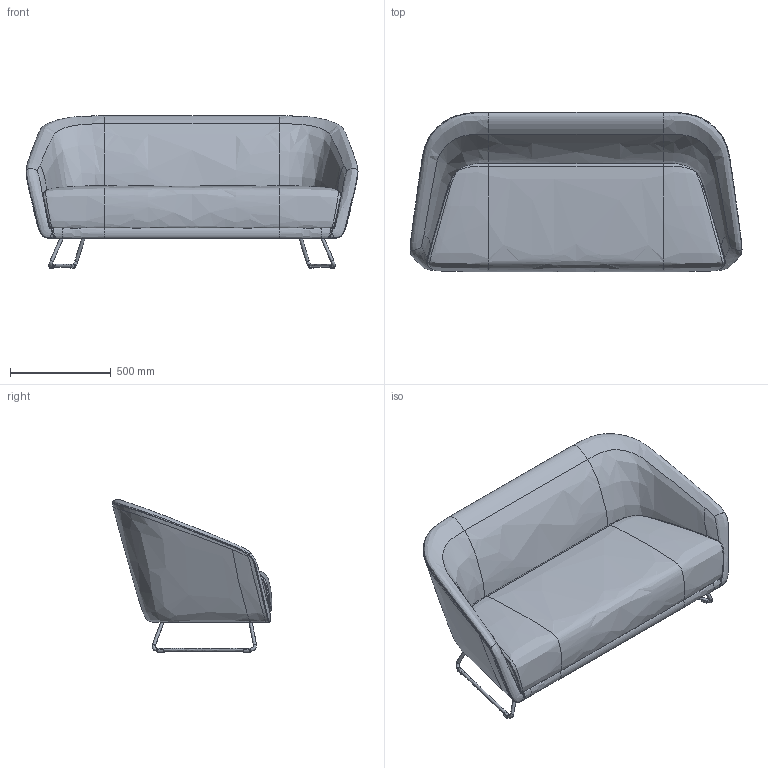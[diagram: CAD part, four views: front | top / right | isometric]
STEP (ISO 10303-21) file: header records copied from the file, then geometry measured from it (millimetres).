
FILE_DESCRIPTION(/* description */ (''),/* implementation_level */ '2;1');
FILE_NAME(/* name */ 'Organix OX5263',/* time_stamp */ '2020-12-16T09:28:44+01:00',/* author */ (''),/* organization */ (''),/* preprocessor_version */ 'ST-DEVELOPER v16.5',/* originating_system */ '',/* authorisation */ '');
FILE_SCHEMA (('AUTOMOTIVE_DESIGN'));
Length unit declared in the file: millimetre
Products named in the file (1): Document
Bounding box: 1648.48 x 792.32 x 758.41 mm (x, y, z)
Volume: 324671 mm3; surface area: 5049127.1 mm2
Topology: 6 solids, 12 shells, 113 faces, 283 edges, 182 vertices
Faces by surface type: bspline 77, plane 36
Entity records: 12452 total; most frequent: CARTESIAN_POINT 10756, ORIENTED_EDGE 492, EDGE_CURVE 280, VERTEX_POINT 176, B_SPLINE_CURVE_WITH_KNOTS 163, ADVANCED_FACE 113, FACE_OUTER_BOUND 113, EDGE_LOOP 113
